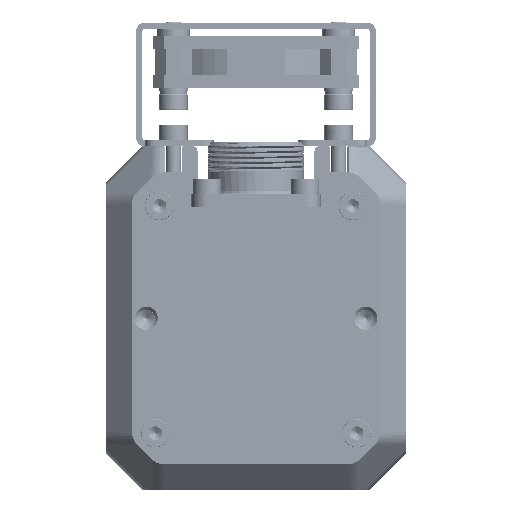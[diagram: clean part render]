
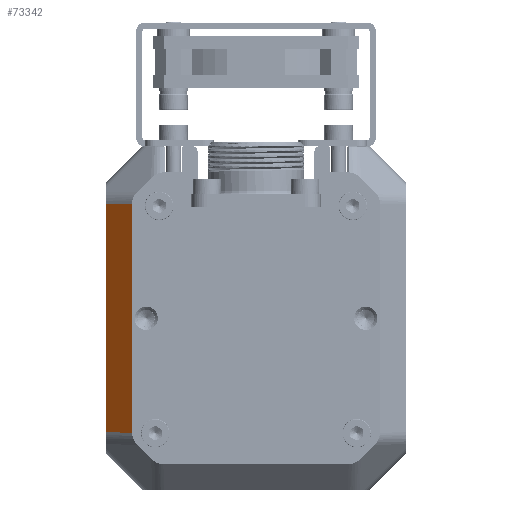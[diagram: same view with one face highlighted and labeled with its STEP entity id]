
A CAD part, front view. The second image highlights one B-rep face of the part: STEP entity #73342.
In plain terms, the highlighted planar face has unit normal (-0.707, -0.707, 0) as drawn and (0.707, 0, 0.707) by its records, which use the part's own axes.
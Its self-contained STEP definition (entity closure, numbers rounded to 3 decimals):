
#67158=DIRECTION('',(0.,1.,0.));
#67159=VECTOR('',#67158,44.094);
#67160=CARTESIAN_POINT('',(29.,-55.297,-5.));
#67161=LINE('',#67160,#67159);
#68007=CARTESIAN_POINT('',(29.,-55.297,-5.));
#68017=DIRECTION('',(-0.707,-0.02,0.707));
#68018=VECTOR('',#68017,7.072);
#68019=CARTESIAN_POINT('',(29.,-55.297,-5.));
#68020=LINE('',#68019,#68018);
#68024=DIRECTION('',(0.,1.,0.));
#68025=VECTOR('',#68024,44.371);
#68026=CARTESIAN_POINT('',(24.,-55.435,0.));
#68027=LINE('',#68026,#68025);
#68031=DIRECTION('',(0.707,-0.02,-0.707));
#68032=VECTOR('',#68031,7.072);
#68033=CARTESIAN_POINT('',(24.,-11.065,0.));
#68034=LINE('',#68033,#68032);
#68038=CARTESIAN_POINT('',(24.,-11.065,0.));
#69645=VERTEX_POINT('',#68038);
#69646=CARTESIAN_POINT('',(24.,-55.435,0.));
#69647=VERTEX_POINT('',#69646);
#70312=VERTEX_POINT('',#68007);
#70313=CARTESIAN_POINT('',(29.,-11.203,-5.));
#70314=VERTEX_POINT('',#70313);
#73330=CARTESIAN_POINT('',(26.5,-33.25,-2.5));
#73331=DIRECTION('',(0.707,0.,0.707));
#73332=DIRECTION('',(0.707,0.,-0.707));
#73333=AXIS2_PLACEMENT_3D('',#73330,#73331,#73332);
#73334=PLANE('',#73333);
#73335=ORIENTED_EDGE('',*,*,#72512,.F.);
#73336=ORIENTED_EDGE('',*,*,#73323,.T.);
#73337=ORIENTED_EDGE('',*,*,#70588,.T.);
#73339=ORIENTED_EDGE('',*,*,#73338,.T.);
#73340=EDGE_LOOP('',(#73335,#73336,#73337,#73339));
#73341=FACE_OUTER_BOUND('',#73340,.F.);
#70588=EDGE_CURVE('',#69647,#69645,#68027,.T.);
#72512=EDGE_CURVE('',#70312,#70314,#67161,.T.);
#73323=EDGE_CURVE('',#70312,#69647,#68020,.T.);
#73338=EDGE_CURVE('',#69645,#70314,#68034,.T.);
#73342=ADVANCED_FACE('',(#73341),#73334,.T.);
